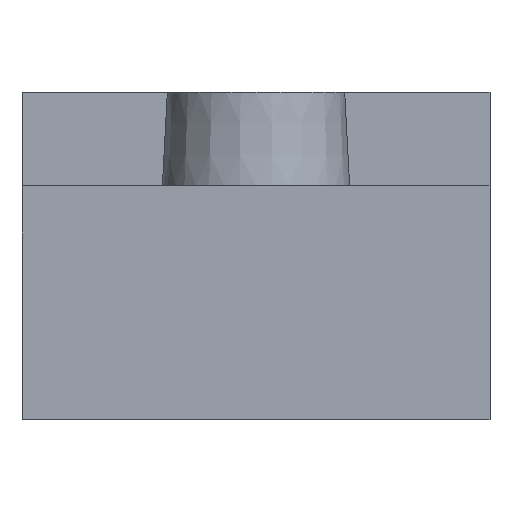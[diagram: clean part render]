
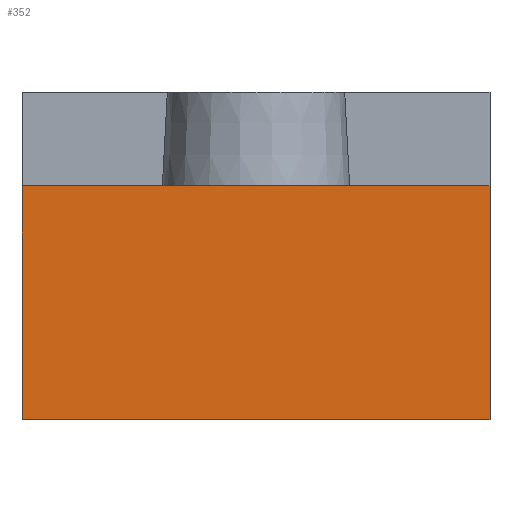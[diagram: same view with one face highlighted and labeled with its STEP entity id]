
A CAD part, front view. The second image highlights one B-rep face of the part: STEP entity #352.
In plain terms, the highlighted planar face has unit normal (0, -1, 0).
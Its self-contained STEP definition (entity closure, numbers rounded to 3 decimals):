
#1 = ORIENTED_EDGE ( 'NONE', *, *, #268, .T. ) ;
#4 = VECTOR ( 'NONE', #88, 1000. ) ;
#16 = FACE_OUTER_BOUND ( 'NONE', #154, .T. ) ;
#46 = CARTESIAN_POINT ( 'NONE',  ( 2.5, -7.5, 2.5 ) ) ;
#55 = LINE ( 'NONE', #260, #307 ) ;
#56 = CARTESIAN_POINT ( 'NONE',  ( 2.5, -7.5, 2.5 ) ) ;
#59 = DIRECTION ( 'NONE',  ( -1., 0., 0. ) ) ;
#63 = VERTEX_POINT ( 'NONE', #46 ) ;
#88 = DIRECTION ( 'NONE',  ( 0., 0., 1. ) ) ;
#94 = EDGE_CURVE ( 'NONE', #259, #63, #290, .T. ) ;
#101 = ORIENTED_EDGE ( 'NONE', *, *, #94, .T. ) ;
#133 = EDGE_CURVE ( 'NONE', #228, #213, #55, .T. ) ;
#154 = EDGE_LOOP ( 'NONE', ( #246, #216, #101, #1 ) ) ;
#170 = DIRECTION ( 'NONE',  ( 0., 0., -1. ) ) ;
#213 = VERTEX_POINT ( 'NONE', #351 ) ;
#216 = ORIENTED_EDGE ( 'NONE', *, *, #274, .T. ) ;
#223 = VECTOR ( 'NONE', #59, 1000. ) ;
#228 = VERTEX_POINT ( 'NONE', #267 ) ;
#229 = CARTESIAN_POINT ( 'NONE',  ( 2.5, -7.5, 0. ) ) ;
#239 = LINE ( 'NONE', #320, #317 ) ;
#246 = ORIENTED_EDGE ( 'NONE', *, *, #133, .T. ) ;
#259 = VERTEX_POINT ( 'NONE', #323 ) ;
#260 = CARTESIAN_POINT ( 'NONE',  ( -2.5, -7.5, 2.5 ) ) ;
#267 = CARTESIAN_POINT ( 'NONE',  ( -2.5, -7.5, 2.5 ) ) ;
#268 = EDGE_CURVE ( 'NONE', #63, #228, #381, .T. ) ;
#270 = AXIS2_PLACEMENT_3D ( 'NONE', #283, #366, #282 ) ;
#274 = EDGE_CURVE ( 'NONE', #213, #259, #239, .T. ) ;
#276 = PLANE ( 'NONE',  #270 ) ;
#282 = DIRECTION ( 'NONE',  ( 0., 0., -1. ) ) ;
#283 = CARTESIAN_POINT ( 'NONE',  ( 0., -7.5, 0. ) ) ;
#290 = LINE ( 'NONE', #229, #4 ) ;
#307 = VECTOR ( 'NONE', #170, 1000. ) ;
#317 = VECTOR ( 'NONE', #379, 1000. ) ;
#320 = CARTESIAN_POINT ( 'NONE',  ( -2.5, -7.5, 0. ) ) ;
#323 = CARTESIAN_POINT ( 'NONE',  ( 2.5, -7.5, 0. ) ) ;
#351 = CARTESIAN_POINT ( 'NONE',  ( -2.5, -7.5, 0. ) ) ;
#352 = ADVANCED_FACE ( 'NONE', ( #16 ), #276, .T. ) ;
#366 = DIRECTION ( 'NONE',  ( 0., -1., 0. ) ) ;
#379 = DIRECTION ( 'NONE',  ( 1., 0., 0. ) ) ;
#381 = LINE ( 'NONE', #56, #223 ) ;
